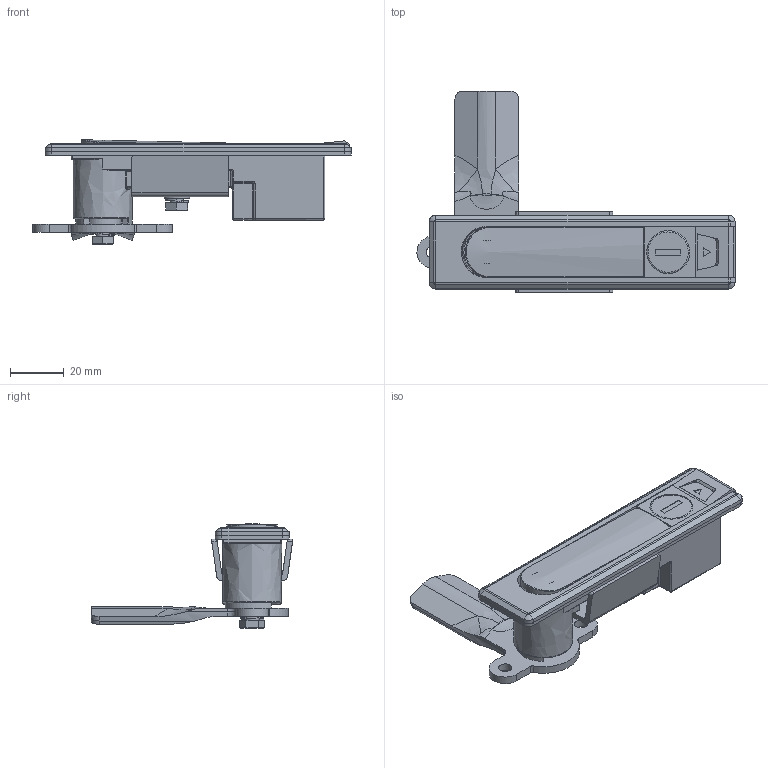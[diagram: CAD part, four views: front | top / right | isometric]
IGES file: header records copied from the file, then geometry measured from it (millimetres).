
Global section: file name: DR_MG-305; native system: Autodesk Inventor 2015; preprocessor: unknown; author: Administrator; date: 20170731.144630; units: millimetre
Bounding box: 118.49 x 75.18 x 38.91 mm (x, y, z)
Volume: 45901.9 mm3; surface area: 42100.9 mm2
Topology: 17 solids, 17 shells, 612 faces, 1517 edges, 955 vertices
Faces by surface type: bspline 612
